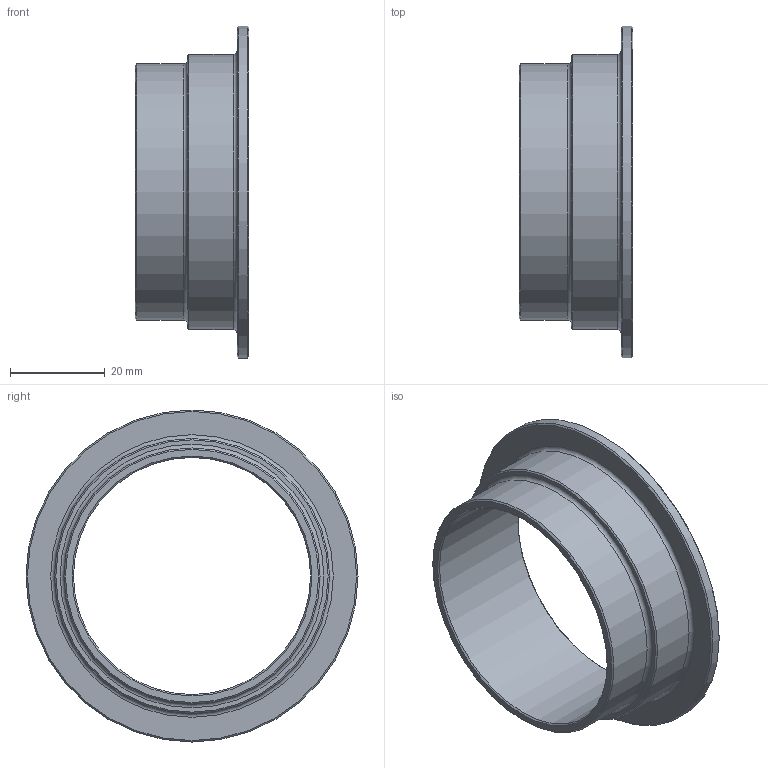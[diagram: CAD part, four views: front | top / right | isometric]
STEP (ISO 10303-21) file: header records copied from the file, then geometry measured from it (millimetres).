
FILE_DESCRIPTION(/* description */ (''),/* implementation_level */ '2;1');
FILE_NAME(/* name */ 'C:\Users\cad\Desktop\Zeichnungen neu von Ralph\3D_Kupplung_R666-SE\3D_R666-SE-54-DN65_17113369.stp',/* time_stamp */ '2021-06-18T09:00:29+02:00',/* author */ ('cad'),/* organization */ (''),/* preprocessor_version */ 'ST-DEVELOPER v18.1',/* originating_system */ 'Autodesk Inventor 2022',/* authorisation */ '');
FILE_SCHEMA (('AUTOMOTIVE_DESIGN { 1 0 10303 214 3 1 1 }'));
Length unit declared in the file: millimetre
Products named in the file (1): 3D_R666-SE-54-DN65_17113369
Bounding box: 24 x 70 x 70 mm (x, y, z)
Volume: 15430.4 mm3; surface area: 11554.1 mm2
Topology: 1 solids, 1 shells, 16 faces, 36 edges, 24 vertices
Faces by surface type: cone 6, cylinder 4, plane 4, torus 2
Full cylindrical faces by diameter (mm): 50 x1, 54 x1, 58 x1, 70 x1
Entity records: 511 total; most frequent: DIRECTION 96, CARTESIAN_POINT 77, ORIENTED_EDGE 72, AXIS2_PLACEMENT_3D 43, EDGE_CURVE 36, CIRCLE 26, VERTEX_POINT 24, EDGE_LOOP 20
